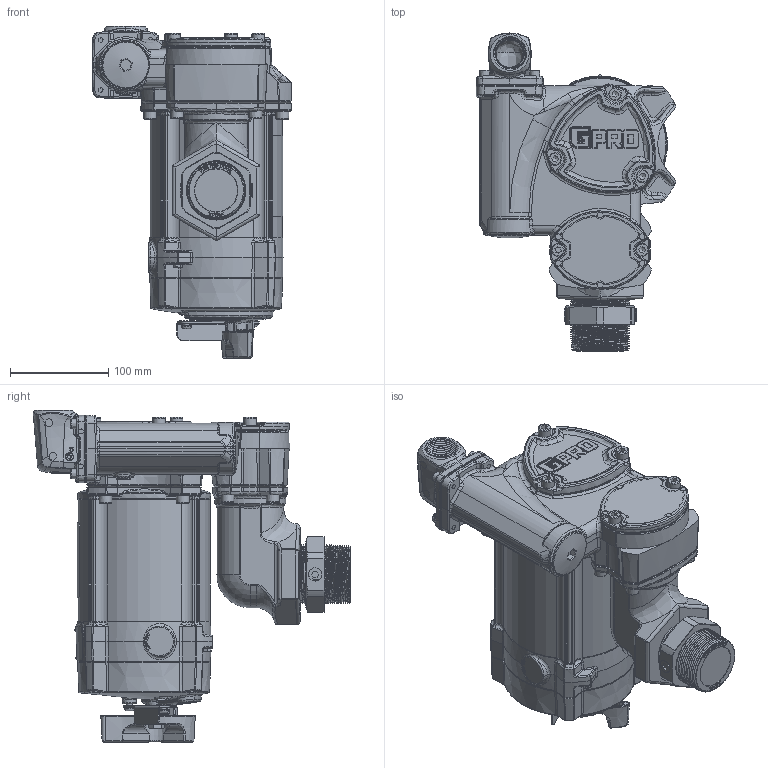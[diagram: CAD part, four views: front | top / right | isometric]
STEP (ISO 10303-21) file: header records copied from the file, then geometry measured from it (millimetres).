
FILE_DESCRIPTION(/* description */ (''),/* implementation_level */ '2;1');
FILE_NAME(/* name */ 'V20-115_RD_WEB.stp',/* time_stamp */ '2024-10-23T11:26:36-05:00',/* author */ ('gdanhar'),/* organization */ (''),/* preprocessor_version */ 'ST-DEVELOPER v20',/* originating_system */ 'Autodesk Inventor 2024',/* authorisation */ '');
FILE_SCHEMA (('AUTOMOTIVE_DESIGN { 1 0 10303 214 3 1 1 }'));
Length unit declared in the file: inch
Products named in the file (1): V20-115_RD
Bounding box: 203.5 x 323.4 x 337.93 mm (x, y, z)
Volume: 5868421.8 mm3; surface area: 398504.6 mm2
Topology: 4 solids, 58 shells, 7246 faces, 18103 edges, 11115 vertices
Faces by surface type: bspline 2402, plane 2220, cylinder 1262, torus 627, cone 421, sphere 314
Full cylindrical faces by diameter (mm): 3.68 x1, 4.826 x1, 4.917 x6, 4.978 x9, 5 x1, 5.842 x6, 5.994 x4, 6 x15, 6.5 x4, 6.604 x2, 6.756 x13, 8 x14, 8.407 x3, 8.992 x4, 9.487 x1, 9.525 x6, 9.906 x1, 10 x12, 10.5 x2, 10.516 x1, 12.706 x1, 13 x13, 17.475 x1, 47.625 x1, 48.26 x1, 56.744 x1, 65.024 x1, 72.39 x1, 126.174 x1, 126.2 x1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
Entity records: 382889 total; most frequent: CARTESIAN_POINT 215561, ORIENTED_EDGE 35982, DIRECTION 29891, EDGE_CURVE 17991, AXIS2_PLACEMENT_3D 12187, VERTEX_POINT 11111, EDGE_LOOP 7642, FACE_OUTER_BOUND 7243
